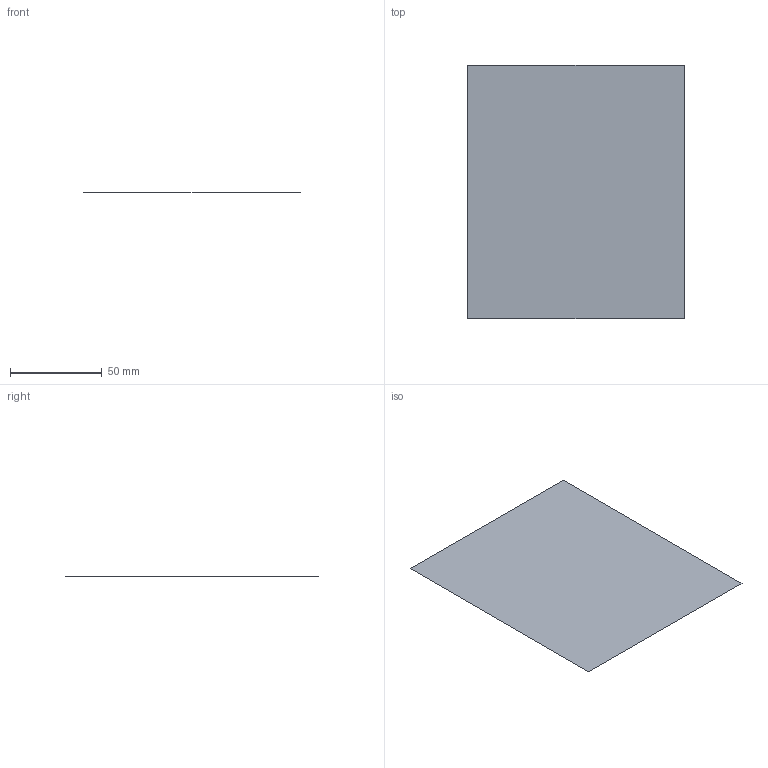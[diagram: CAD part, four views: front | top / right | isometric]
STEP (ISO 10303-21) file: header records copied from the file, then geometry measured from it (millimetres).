
FILE_DESCRIPTION(('CATIA V5 STEP Exchange'),'2;1');
FILE_NAME('C:\_Andres\UNIVERSIDAD\IQS\ASIGNATURAS\DAO\EXF\EXF-15161c\1original\Vila_Vaquer_Ej06-calculo_v28.stp','2016-03-04T20:57:44+00:00',('none'),('none'),'CATIA Version 5 Release 20 SP 1 (IN-10)','CATIA V5 STEP AP203','none');
FILE_SCHEMA(('CONFIG_CONTROL_DESIGN'));
Length unit declared in the file: millimetre
Products named in the file (1): Vila_Vaquer_Ej06-calculo_v28
Bounding box: 118 x 138 x 0 mm (x, y, z)
Surface area: 16284 mm2 (no closed solid volume)
Topology: 0 solids, 1 shells, 1 faces, 8 edges, 9 vertices
Faces by surface type: plane 1
Entity records: 130 total; most frequent: CARTESIAN_POINT 23, DIRECTION 12, VECTOR 8, LINE 8, COMPOSITE_CURVE_SEGMENT 4, ORIENTED_EDGE 4, CC_DESIGN_PERSON_AND_ORGANIZATION_ASSIGNMENT 4, PERSON_AND_ORGANIZATION_ROLE 4
